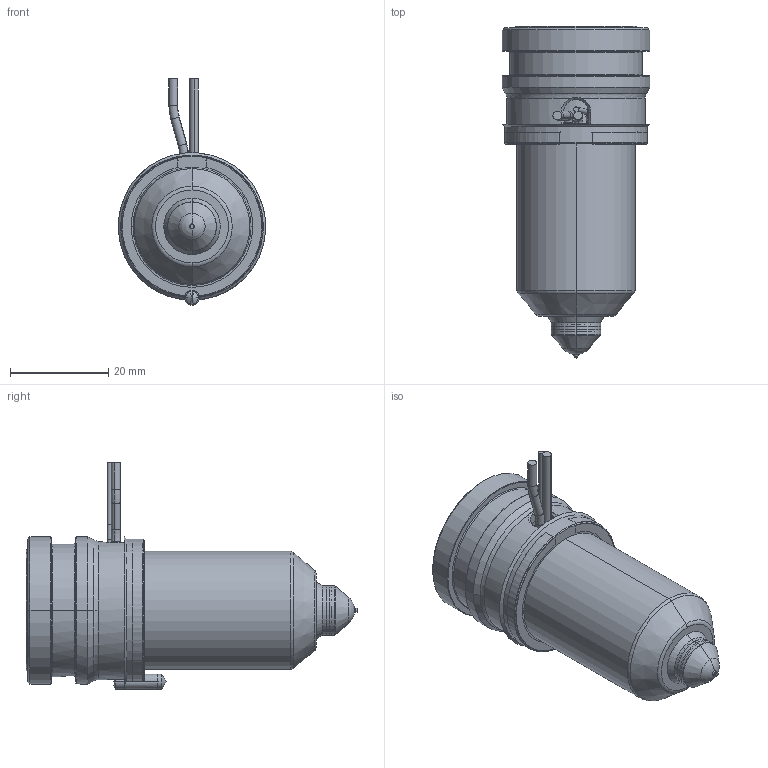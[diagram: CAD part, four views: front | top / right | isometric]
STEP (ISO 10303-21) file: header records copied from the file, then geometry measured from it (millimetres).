
FILE_DESCRIPTION((''),'2;1');
FILE_NAME('MPN-10-29-VX10-046-A','2026-02-05T12:40:03',('UPTIO'),('Thermoplay S.p.A.'),'CREO PARAMETRIC BY PTC INC, 2023494','CREO PARAMETRIC BY PTC INC, 2023494','');
FILE_SCHEMA(('CONFIG_CONTROL_DESIGN','SHAPE_APPEARANCE_LAYERS_GROUPS'));
Length unit declared in the file: millimetre
Products named in the file (1): MPN-10-29-VX10-046-A
Bounding box: 30 x 67.5 x 46 mm (x, y, z)
Volume: 22395.4 mm3; surface area: 21238.2 mm2
Topology: 2 solids, 3 shells, 528 faces, 1387 edges, 859 vertices
Faces by surface type: cylinder 180, plane 133, cone 70, torus 67, bspline 65, sphere 9, extrusion 4
Entity records: 26948 total; most frequent: CARTESIAN_POINT 11259, ORIENTED_EDGE 2762, DIRECTION 2583, EDGE_CURVE 1381, AXIS2_PLACEMENT_3D 1025, VERTEX_POINT 859, CIRCLE 565, EDGE_LOOP 556
